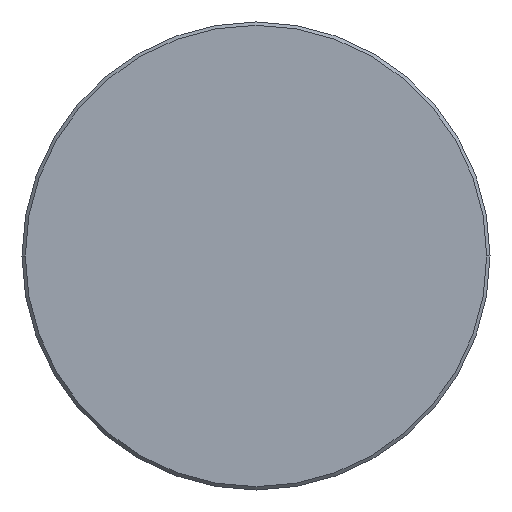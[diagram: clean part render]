
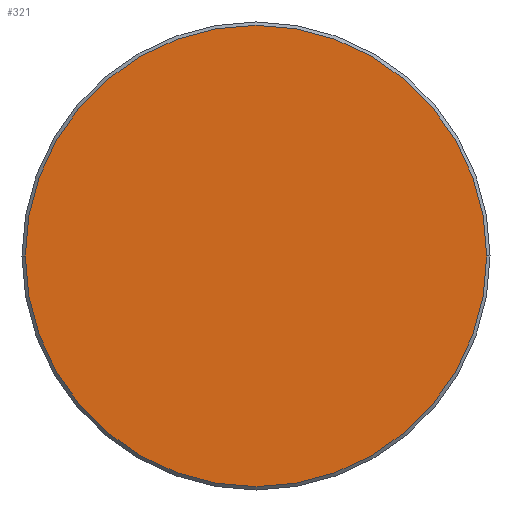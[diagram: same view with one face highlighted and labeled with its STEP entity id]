
A CAD part, left-side view. The second image highlights one B-rep face of the part: STEP entity #321.
In plain terms, the highlighted planar face has unit normal (-1, 0, 0).
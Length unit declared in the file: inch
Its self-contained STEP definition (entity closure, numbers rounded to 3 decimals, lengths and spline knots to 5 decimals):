
#7 = AXIS2_PLACEMENT_3D ( 'NONE', #113, #206, #270 ) ;
#10 = DIRECTION ( 'NONE',  ( -1., 0., 0. ) ) ;
#38 = CARTESIAN_POINT ( 'NONE',  ( 0., 0., 0. ) ) ;
#45 = CARTESIAN_POINT ( 'NONE',  ( 0., -0.27725, 0. ) ) ;
#71 = AXIS2_PLACEMENT_3D ( 'NONE', #38, #368, #95 ) ;
#94 = CIRCLE ( 'NONE', #150, 0.27725 ) ;
#95 = DIRECTION ( 'NONE',  ( 0., -1., 0. ) ) ;
#113 = CARTESIAN_POINT ( 'NONE',  ( 0., 0., 0. ) ) ;
#150 = AXIS2_PLACEMENT_3D ( 'NONE', #253, #10, #284 ) ;
#167 = VERTEX_POINT ( 'NONE', #180 ) ;
#180 = CARTESIAN_POINT ( 'NONE',  ( 0., 0.27725, 0. ) ) ;
#192 = CIRCLE ( 'NONE', #71, 0.27725 ) ;
#195 = EDGE_CURVE ( 'NONE', #381, #167, #192, .T. ) ;
#200 = ORIENTED_EDGE ( 'NONE', *, *, #195, .T. ) ;
#201 = EDGE_LOOP ( 'NONE', ( #249, #200 ) ) ;
#206 = DIRECTION ( 'NONE',  ( -1., 0., 0. ) ) ;
#216 = FACE_OUTER_BOUND ( 'NONE', #201, .T. ) ;
#226 = EDGE_CURVE ( 'NONE', #167, #381, #94, .T. ) ;
#239 = PLANE ( 'NONE',  #7 ) ;
#249 = ORIENTED_EDGE ( 'NONE', *, *, #226, .T. ) ;
#253 = CARTESIAN_POINT ( 'NONE',  ( 0., 0., 0. ) ) ;
#270 = DIRECTION ( 'NONE',  ( 0., -1., 0. ) ) ;
#284 = DIRECTION ( 'NONE',  ( 0., -1., 0. ) ) ;
#321 = ADVANCED_FACE ( 'NONE', ( #216 ), #239, .T. ) ;
#368 = DIRECTION ( 'NONE',  ( -1., 0., 0. ) ) ;
#381 = VERTEX_POINT ( 'NONE', #45 ) ;
